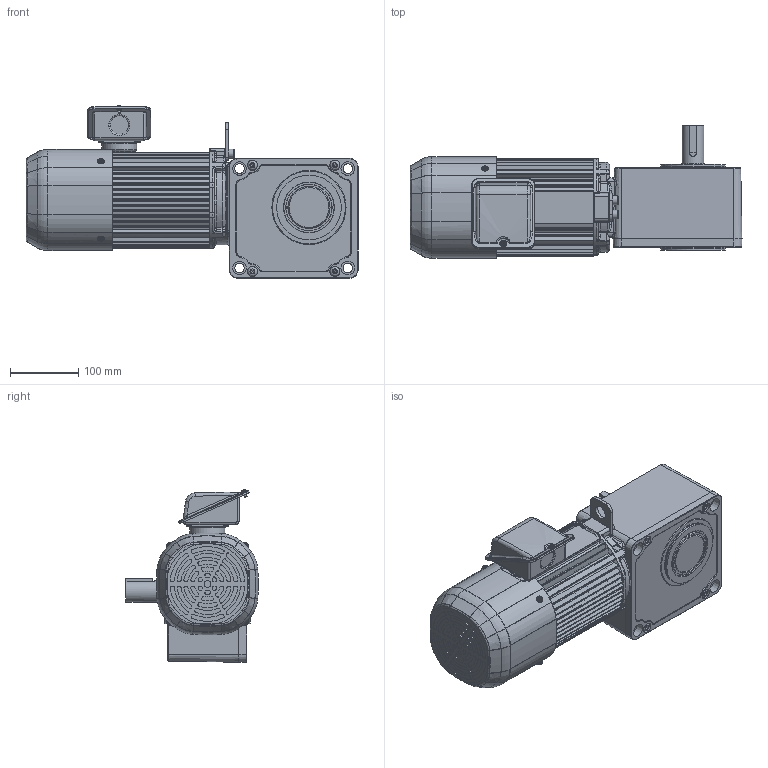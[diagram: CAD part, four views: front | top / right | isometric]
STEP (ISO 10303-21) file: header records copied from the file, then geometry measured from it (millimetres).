
FILE_DESCRIPTION( ( 'Unknown' ), '1' );
FILE_NAME( 'X:/gear/gm/3D-WEB/IE3/SHYP/ﾊﾟｰﾂ/完成品/shypfbrl_075_5-60.stp', 'Unknown', ( 'Unknown' ), ( 'Unknown' ), 'PSStep 14.0', 'Unknown', ' ' );
FILE_SCHEMA( ( 'AUTOMOTIVE_DESIGN { 1 0 10303 214 1 1 1 1 }' ) );
Length unit declared in the file: millimetre
Products named in the file (3): 六角穴付ボルト(M8X16)
Bounding box: 487.5 x 194.71 x 253.35 mm (x, y, z)
Volume: 6296603.6 mm3; surface area: 709896.4 mm2
Topology: 3 solids, 15 shells, 1615 faces, 3994 edges, 2508 vertices
Faces by surface type: cylinder 681, plane 593, torus 130, cone 108, bspline 95, sphere 8
Full cylindrical faces by diameter (mm): 3.8 x6, 4.2 x8, 4.8 x1, 5.5 x4, 5.6 x1, 5.8 x4, 6 x8, 6.647 x3, 7 x5, 8 x10, 8.2 x1, 8.8 x4, 10 x8, 13 x2, 14 x8, 15 x4, 20 x5, 23 x1, 25 x3, 28.6 x1, 32 x1, 34 x1, 34.1 x1, 40 x1, 48 x2, 50 x2, 50.1 x1, 51.2 x1, 54 x1, 55.8 x1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
Entity records: 74831 total; most frequent: CARTESIAN_POINT 23940, DIRECTION 8406, ORIENTED_EDGE 7448, EDGE_CURVE 3724, AXIS2_PLACEMENT_3D 3328, VERTEX_POINT 2452, EDGE_LOOP 1959, CIRCLE 1791
